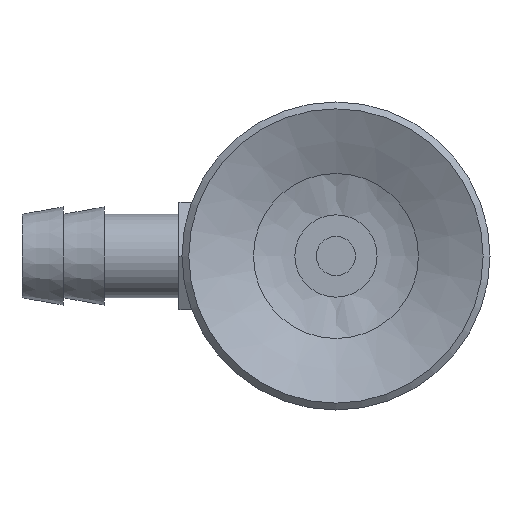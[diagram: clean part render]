
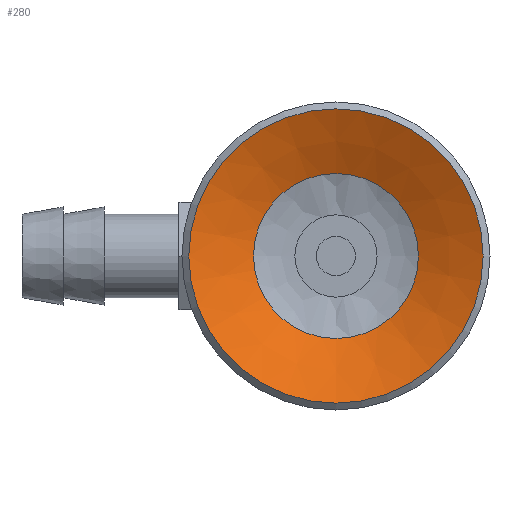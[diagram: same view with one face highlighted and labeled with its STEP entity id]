
A CAD part, front view. The second image highlights one B-rep face of the part: STEP entity #280.
In plain terms, the highlighted conical face has half-angle 65.056 degrees and reference radius 3.2 mm.
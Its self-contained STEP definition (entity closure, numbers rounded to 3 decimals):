
#280=ADVANCED_FACE('',(#466,#467),#468,.F.);
#466=FACE_BOUND('',#691,.T.);
#467=FACE_OUTER_BOUND('',#692,.T.);
#468=CONICAL_SURFACE('',#693,3.2,1.135);
#691=EDGE_LOOP('',(#1119));
#692=EDGE_LOOP('',(#1120));
#693=AXIS2_PLACEMENT_3D('',#1121,#1122,#1123);
#1119=ORIENTED_EDGE('',*,*,#1243,.T.);
#1120=ORIENTED_EDGE('',*,*,#1244,.T.);
#1121=CARTESIAN_POINT('',(0.0,7.896,0.0));
#1122=DIRECTION('',(-0.0,-1.0,0.));
#1123=DIRECTION('',(0.0,0.,-1.0));
#1243=EDGE_CURVE('',#1434,#1434,#1435,.T.);
#1244=EDGE_CURVE('',#1436,#1436,#1437,.T.);
#1434=VERTEX_POINT('',#1924);
#1435=CIRCLE('',#1925,4.203);
#1436=VERTEX_POINT('',#1926);
#1437=CIRCLE('',#1927,7.5);
#1924=CARTESIAN_POINT('',(0.0,7.43,-4.203));
#1925=AXIS2_PLACEMENT_3D('',#2119,#2120,#2121);
#1926=CARTESIAN_POINT('',(0.0,5.896,-7.5));
#1927=AXIS2_PLACEMENT_3D('',#2122,#2123,#2124);
#2119=CARTESIAN_POINT('',(0.0,7.43,0.0));
#2120=DIRECTION('',(0.0,1.0,0.));
#2121=DIRECTION('',(0.0,0.,-1.0));
#2122=CARTESIAN_POINT('',(0.0,5.896,0.0));
#2123=DIRECTION('',(0.0,-1.0,0.));
#2124=DIRECTION('',(0.0,0.,-1.0));
